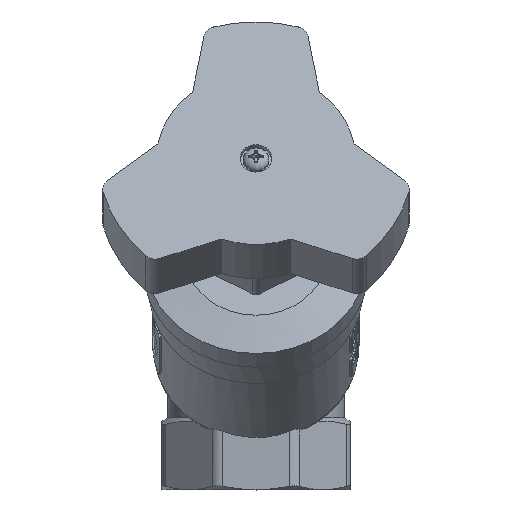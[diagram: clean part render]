
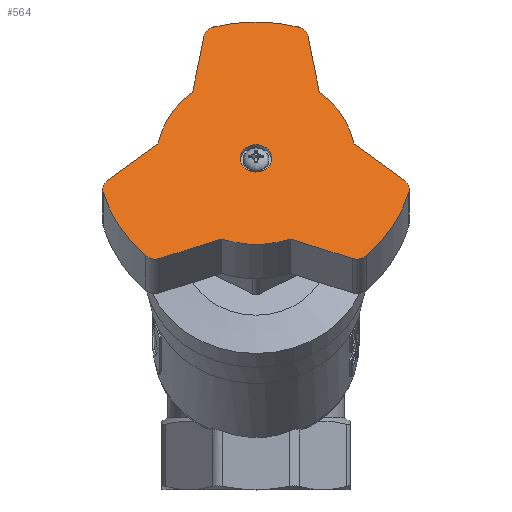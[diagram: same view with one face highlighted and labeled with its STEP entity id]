
A CAD part, top view. The second image highlights one B-rep face of the part: STEP entity #564.
In plain terms, the highlighted planar face has unit normal (0, 0.5, 0.866) as drawn and (0, 1, 0) by its records, which use the part's own axes.
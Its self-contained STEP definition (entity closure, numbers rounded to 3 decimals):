
#564=ADVANCED_FACE('',(#4482,#4484),#4486,.T.);
#4482=FACE_BOUND('',#4483,.T.);
#4483=EDGE_LOOP('',(#7374,#7375,#7376,#7377,#7378,#7379,#7380,#7381,#7382,#7383,
#7384,#7385,#7386,#7387,#7388,#7389,#7390,#7391));
#4484=FACE_BOUND('',#4485,.T.);
#4485=EDGE_LOOP('',(#7392));
#4486=PLANE('',#4487);
#4487=AXIS2_PLACEMENT_3D('',#4488,#4489,#4490);
#4488=CARTESIAN_POINT('',(0.,20.,0.));
#4489=DIRECTION('',(0.,1.,0.));
#4490=DIRECTION('',(-1.,0.,0.));
#7374=ORIENTED_EDGE('',*,*,#8635,.F.);
#7375=ORIENTED_EDGE('',*,*,#8636,.T.);
#7376=ORIENTED_EDGE('',*,*,#8637,.T.);
#7377=ORIENTED_EDGE('',*,*,#8638,.T.);
#7378=ORIENTED_EDGE('',*,*,#8639,.F.);
#7379=ORIENTED_EDGE('',*,*,#8640,.T.);
#7380=ORIENTED_EDGE('',*,*,#8641,.F.);
#7381=ORIENTED_EDGE('',*,*,#8642,.T.);
#7382=ORIENTED_EDGE('',*,*,#8643,.T.);
#7383=ORIENTED_EDGE('',*,*,#8644,.T.);
#7384=ORIENTED_EDGE('',*,*,#8645,.F.);
#7385=ORIENTED_EDGE('',*,*,#8646,.T.);
#7386=ORIENTED_EDGE('',*,*,#8647,.F.);
#7387=ORIENTED_EDGE('',*,*,#8648,.T.);
#7388=ORIENTED_EDGE('',*,*,#8649,.T.);
#7389=ORIENTED_EDGE('',*,*,#8650,.T.);
#7390=ORIENTED_EDGE('',*,*,#8651,.F.);
#7391=ORIENTED_EDGE('',*,*,#8652,.T.);
#7392=ORIENTED_EDGE('',*,*,#8633,.T.);
#8633=EDGE_CURVE('',#10464,#10464,#10465,.F.);
#8635=EDGE_CURVE('',#10468,#10469,#10470,.F.);
#8636=EDGE_CURVE('',#10468,#10471,#10472,.T.);
#8637=EDGE_CURVE('',#10471,#10473,#10474,.T.);
#8638=EDGE_CURVE('',#10473,#10475,#10476,.T.);
#8639=EDGE_CURVE('',#10477,#10475,#10478,.F.);
#8640=EDGE_CURVE('',#10477,#10479,#10480,.T.);
#8641=EDGE_CURVE('',#10481,#10479,#10482,.F.);
#8642=EDGE_CURVE('',#10481,#10483,#10484,.T.);
#8643=EDGE_CURVE('',#10483,#10485,#10486,.T.);
#8644=EDGE_CURVE('',#10485,#10487,#10488,.T.);
#8645=EDGE_CURVE('',#10489,#10487,#10490,.F.);
#8646=EDGE_CURVE('',#10489,#10491,#10492,.T.);
#8647=EDGE_CURVE('',#10493,#10491,#10494,.F.);
#8648=EDGE_CURVE('',#10493,#10495,#10496,.T.);
#8649=EDGE_CURVE('',#10495,#10497,#10498,.T.);
#8650=EDGE_CURVE('',#10497,#10499,#10500,.T.);
#8651=EDGE_CURVE('',#10501,#10499,#10502,.F.);
#8652=EDGE_CURVE('',#10501,#10469,#10503,.T.);
#10464=VERTEX_POINT('',#24632);
#10465=CIRCLE('',#24633,4.6);
#10468=VERTEX_POINT('',#24642);
#10469=VERTEX_POINT('',#24643);
#10470=CIRCLE('',#24644,4.);
#10471=VERTEX_POINT('',#24648);
#10472=LINE('',#24649,#24650);
#10473=VERTEX_POINT('',#24652);
#10474=CIRCLE('',#24653,29.);
#10475=VERTEX_POINT('',#24657);
#10476=LINE('',#24658,#24659);
#10477=VERTEX_POINT('',#24661);
#10478=CIRCLE('',#24662,4.);
#10479=VERTEX_POINT('',#24666);
#10480=CIRCLE('',#24667,46.);
#10481=VERTEX_POINT('',#24671);
#10482=CIRCLE('',#24672,4.);
#10483=VERTEX_POINT('',#24676);
#10484=LINE('',#24677,#24678);
#10485=VERTEX_POINT('',#24680);
#10486=CIRCLE('',#24681,29.);
#10487=VERTEX_POINT('',#24685);
#10488=LINE('',#24686,#24687);
#10489=VERTEX_POINT('',#24689);
#10490=CIRCLE('',#24690,4.);
#10491=VERTEX_POINT('',#24694);
#10492=CIRCLE('',#24695,46.);
#10493=VERTEX_POINT('',#24699);
#10494=CIRCLE('',#24700,4.);
#10495=VERTEX_POINT('',#24704);
#10496=LINE('',#24705,#24706);
#10497=VERTEX_POINT('',#24708);
#10498=CIRCLE('',#24709,29.);
#10499=VERTEX_POINT('',#24713);
#10500=LINE('',#24714,#24715);
#10501=VERTEX_POINT('',#24717);
#10502=CIRCLE('',#24718,4.);
#10503=CIRCLE('',#24722,46.);
#24632=CARTESIAN_POINT('',(-4.6,20.,0.));
#24633=AXIS2_PLACEMENT_3D('',#24634,#24635,#24636);
#24634=CARTESIAN_POINT('',(0.,20.,0.));
#24635=DIRECTION('',(0.,1.,0.));
#24636=DIRECTION('',(-1.,0.,0.));
#24642=CARTESIAN_POINT('',(28.058,20.,-33.727));
#24643=CARTESIAN_POINT('',(32.228,20.,-32.823));
#24644=AXIS2_PLACEMENT_3D('',#24645,#24646,#24647);
#24645=CARTESIAN_POINT('',(29.426,20.,-29.969));
#24646=DIRECTION('',(0.,1.,0.));
#24647=DIRECTION('',(0.701,0.,-0.714));
#24648=CARTESIAN_POINT('',(10.091,20.,-27.188));
#24649=CARTESIAN_POINT('',(28.058,20.,-33.727));
#24650=VECTOR('',#24651,1.);
#24651=DIRECTION('',(-0.94,0.,0.342));
#24652=CARTESIAN_POINT('',(-10.091,20.,-27.188));
#24653=AXIS2_PLACEMENT_3D('',#24654,#24655,#24656);
#24654=CARTESIAN_POINT('',(0.,20.,0.));
#24655=DIRECTION('',(0.,1.,0.));
#24656=DIRECTION('',(0.348,0.,-0.938));
#24657=CARTESIAN_POINT('',(-28.058,20.,-33.727));
#24658=CARTESIAN_POINT('',(-10.091,20.,-27.188));
#24659=VECTOR('',#24660,1.);
#24660=DIRECTION('',(-0.94,0.,-0.342));
#24661=CARTESIAN_POINT('',(-32.228,20.,-32.823));
#24662=AXIS2_PLACEMENT_3D('',#24663,#24664,#24665);
#24663=CARTESIAN_POINT('',(-29.426,20.,-29.969));
#24664=DIRECTION('',(0.,1.,0.));
#24665=DIRECTION('',(0.342,0.,-0.94));
#24666=CARTESIAN_POINT('',(-44.54,20.,-11.499));
#24667=AXIS2_PLACEMENT_3D('',#24668,#24669,#24670);
#24668=CARTESIAN_POINT('',(0.,20.,0.));
#24669=DIRECTION('',(0.,1.,0.));
#24670=DIRECTION('',(-0.701,0.,-0.714));
#24671=CARTESIAN_POINT('',(-43.238,20.,-7.435));
#24672=AXIS2_PLACEMENT_3D('',#24673,#24674,#24675);
#24673=CARTESIAN_POINT('',(-40.667,20.,-10.499));
#24674=DIRECTION('',(0.,1.,0.));
#24675=DIRECTION('',(-0.968,0.,-0.25));
#24676=CARTESIAN_POINT('',(-28.591,20.,4.855));
#24677=CARTESIAN_POINT('',(-43.238,20.,-7.435));
#24678=VECTOR('',#24679,1.);
#24679=DIRECTION('',(0.766,0.,0.643));
#24680=CARTESIAN_POINT('',(-18.5,20.,22.333));
#24681=AXIS2_PLACEMENT_3D('',#24682,#24683,#24684);
#24682=CARTESIAN_POINT('',(0.,20.,0.));
#24683=DIRECTION('',(0.,1.,0.));
#24684=DIRECTION('',(-0.986,0.,0.167));
#24685=CARTESIAN_POINT('',(-15.18,20.,41.162));
#24686=CARTESIAN_POINT('',(-18.5,20.,22.333));
#24687=VECTOR('',#24688,1.);
#24688=DIRECTION('',(0.174,0.,0.985));
#24689=CARTESIAN_POINT('',(-12.311,20.,44.322));
#24690=AXIS2_PLACEMENT_3D('',#24691,#24692,#24693);
#24691=CARTESIAN_POINT('',(-11.241,20.,40.468));
#24692=DIRECTION('',(0.,1.,0.));
#24693=DIRECTION('',(-0.985,0.,0.174));
#24694=CARTESIAN_POINT('',(12.311,20.,44.322));
#24695=AXIS2_PLACEMENT_3D('',#24696,#24697,#24698);
#24696=CARTESIAN_POINT('',(0.,20.,0.));
#24697=DIRECTION('',(0.,1.,0.));
#24698=DIRECTION('',(-0.268,0.,0.964));
#24699=CARTESIAN_POINT('',(15.18,20.,41.162));
#24700=AXIS2_PLACEMENT_3D('',#24701,#24702,#24703);
#24701=CARTESIAN_POINT('',(11.241,20.,40.468));
#24702=DIRECTION('',(0.,1.,0.));
#24703=DIRECTION('',(0.268,0.,0.964));
#24704=CARTESIAN_POINT('',(18.5,20.,22.333));
#24705=CARTESIAN_POINT('',(15.18,20.,41.162));
#24706=VECTOR('',#24707,1.);
#24707=DIRECTION('',(0.174,0.,-0.985));
#24708=CARTESIAN_POINT('',(28.591,20.,4.855));
#24709=AXIS2_PLACEMENT_3D('',#24710,#24711,#24712);
#24710=CARTESIAN_POINT('',(0.,20.,0.));
#24711=DIRECTION('',(0.,1.,0.));
#24712=DIRECTION('',(0.638,0.,0.77));
#24713=CARTESIAN_POINT('',(43.238,20.,-7.435));
#24714=CARTESIAN_POINT('',(28.591,20.,4.855));
#24715=VECTOR('',#24716,1.);
#24716=DIRECTION('',(0.766,0.,-0.643));
#24717=CARTESIAN_POINT('',(44.54,20.,-11.499));
#24718=AXIS2_PLACEMENT_3D('',#24719,#24720,#24721);
#24719=CARTESIAN_POINT('',(40.667,20.,-10.499));
#24720=DIRECTION('',(0.,1.,0.));
#24721=DIRECTION('',(0.643,0.,0.766));
#24722=AXIS2_PLACEMENT_3D('',#24723,#24724,#24725);
#24723=CARTESIAN_POINT('',(0.,20.,0.));
#24724=DIRECTION('',(0.,1.,0.));
#24725=DIRECTION('',(0.968,0.,-0.25));
